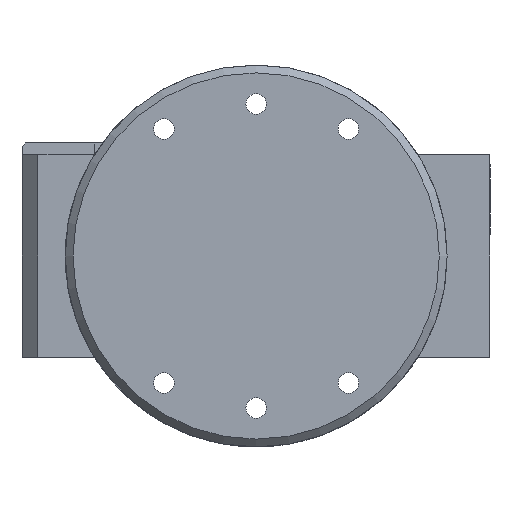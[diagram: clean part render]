
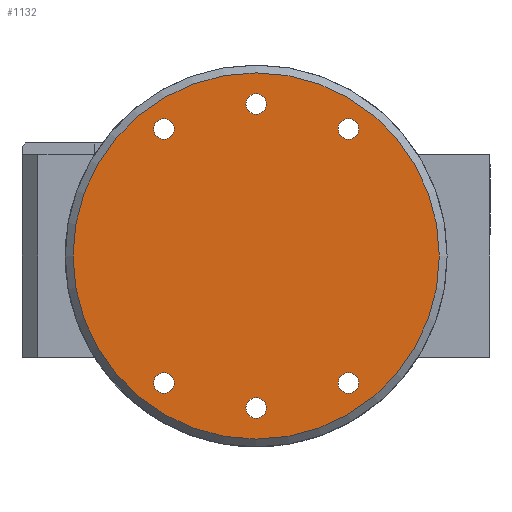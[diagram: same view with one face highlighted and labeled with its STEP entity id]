
A CAD part, left-side view. The second image highlights one B-rep face of the part: STEP entity #1132.
In plain terms, the highlighted planar face has unit normal (-1, 0, 0).
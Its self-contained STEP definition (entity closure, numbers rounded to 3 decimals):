
#59=FACE_BOUND('',#255,.T.);
#60=FACE_BOUND('',#256,.T.);
#61=FACE_BOUND('',#257,.T.);
#62=FACE_BOUND('',#258,.T.);
#63=FACE_BOUND('',#259,.T.);
#64=FACE_BOUND('',#260,.T.);
#104=CIRCLE('',#1248,47.);
#105=CIRCLE('',#1250,2.65);
#106=CIRCLE('',#1251,2.65);
#107=CIRCLE('',#1252,2.65);
#108=CIRCLE('',#1253,2.65);
#109=CIRCLE('',#1254,2.65);
#110=CIRCLE('',#1255,2.65);
#173=FACE_OUTER_BOUND('',#254,.T.);
#254=EDGE_LOOP('',(#944));
#255=EDGE_LOOP('',(#945));
#256=EDGE_LOOP('',(#946));
#257=EDGE_LOOP('',(#947));
#258=EDGE_LOOP('',(#948));
#259=EDGE_LOOP('',(#949));
#260=EDGE_LOOP('',(#950));
#552=VERTEX_POINT('',#1883);
#553=VERTEX_POINT('',#1887);
#554=VERTEX_POINT('',#1889);
#555=VERTEX_POINT('',#1891);
#556=VERTEX_POINT('',#1893);
#557=VERTEX_POINT('',#1895);
#558=VERTEX_POINT('',#1897);
#691=EDGE_CURVE('',#552,#552,#104,.T.);
#693=EDGE_CURVE('',#553,#553,#105,.T.);
#694=EDGE_CURVE('',#554,#554,#106,.T.);
#695=EDGE_CURVE('',#555,#555,#107,.T.);
#696=EDGE_CURVE('',#556,#556,#108,.T.);
#697=EDGE_CURVE('',#557,#557,#109,.T.);
#698=EDGE_CURVE('',#558,#558,#110,.T.);
#944=ORIENTED_EDGE('',*,*,#691,.F.);
#945=ORIENTED_EDGE('',*,*,#693,.T.);
#946=ORIENTED_EDGE('',*,*,#694,.T.);
#947=ORIENTED_EDGE('',*,*,#695,.T.);
#948=ORIENTED_EDGE('',*,*,#696,.T.);
#949=ORIENTED_EDGE('',*,*,#697,.T.);
#950=ORIENTED_EDGE('',*,*,#698,.T.);
#1076=PLANE('',#1249);
#1132=ADVANCED_FACE('',(#173,#59,#60,#61,#62,#63,#64),#1076,.F.);
#1248=AXIS2_PLACEMENT_3D('',#1884,#1533,#1534);
#1249=AXIS2_PLACEMENT_3D('',#1886,#1536,#1537);
#1250=AXIS2_PLACEMENT_3D('',#1888,#1538,#1539);
#1251=AXIS2_PLACEMENT_3D('',#1890,#1540,#1541);
#1252=AXIS2_PLACEMENT_3D('',#1892,#1542,#1543);
#1253=AXIS2_PLACEMENT_3D('',#1894,#1544,#1545);
#1254=AXIS2_PLACEMENT_3D('',#1896,#1546,#1547);
#1255=AXIS2_PLACEMENT_3D('',#1898,#1548,#1549);
#1533=DIRECTION('center_axis',(1.,0.,0.));
#1534=DIRECTION('ref_axis',(0.,1.,0.));
#1536=DIRECTION('center_axis',(1.,0.,0.));
#1537=DIRECTION('ref_axis',(0.,1.,0.));
#1538=DIRECTION('center_axis',(1.,0.,0.));
#1539=DIRECTION('ref_axis',(0.,1.,0.));
#1540=DIRECTION('center_axis',(1.,0.,0.));
#1541=DIRECTION('ref_axis',(0.,1.,0.));
#1542=DIRECTION('center_axis',(1.,0.,0.));
#1543=DIRECTION('ref_axis',(0.,1.,0.));
#1544=DIRECTION('center_axis',(1.,0.,0.));
#1545=DIRECTION('ref_axis',(0.,1.,0.));
#1546=DIRECTION('center_axis',(1.,0.,0.));
#1547=DIRECTION('ref_axis',(0.,1.,0.));
#1548=DIRECTION('center_axis',(1.,0.,0.));
#1549=DIRECTION('ref_axis',(0.,1.,0.));
#1883=CARTESIAN_POINT('',(-10.,69.186,293.413));
#1884=CARTESIAN_POINT('Origin',(-10.,116.186,293.413));
#1886=CARTESIAN_POINT('Origin',(-10.,116.186,293.413));
#1887=CARTESIAN_POINT('',(-10.,113.536,254.413));
#1888=CARTESIAN_POINT('Origin',(-10.,116.186,254.413));
#1889=CARTESIAN_POINT('',(-10.,137.216,260.82));
#1890=CARTESIAN_POINT('Origin',(-10.,139.866,260.82));
#1891=CARTESIAN_POINT('',(-10.,89.85,260.813));
#1892=CARTESIAN_POINT('Origin',(-10.,92.5,260.813));
#1893=CARTESIAN_POINT('',(-10.,137.216,326.007));
#1894=CARTESIAN_POINT('Origin',(-10.,139.866,326.007));
#1895=CARTESIAN_POINT('',(-10.,89.85,326.014));
#1896=CARTESIAN_POINT('Origin',(-10.,92.5,326.014));
#1897=CARTESIAN_POINT('',(-10.,113.536,332.413));
#1898=CARTESIAN_POINT('Origin',(-10.,116.186,332.413));
